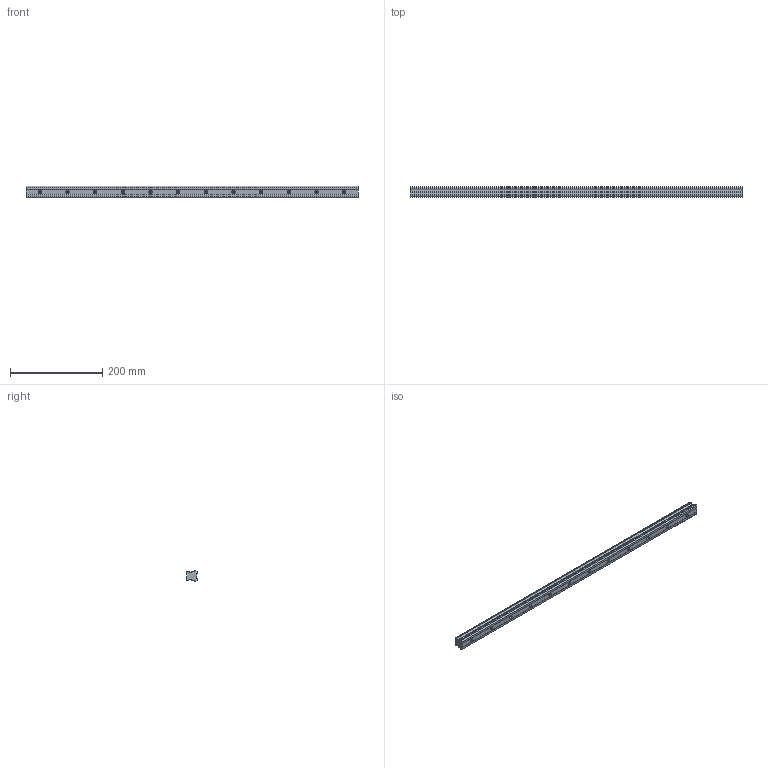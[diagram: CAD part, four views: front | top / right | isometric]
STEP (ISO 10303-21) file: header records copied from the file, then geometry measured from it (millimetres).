
FILE_DESCRIPTION (( 'STEP AP203' ), '1' );
FILE_NAME ('L1018.25R-0720.step', '2023-08-06T10:34:09', ( '' ), ( '' ), 'SwSTEP 2.0', 'SolidWorks 2019', '' );
FILE_SCHEMA (( 'CONFIG_CONTROL_DESIGN' ));
Length unit declared in the file: millimetre
Products named in the file (1): L1018.25R-0720
Bounding box: 720 x 21.8 x 25 mm (x, y, z)
Volume: 299439.4 mm3; surface area: 72341 mm2
Topology: 1 solids, 1 shells, 137 faces, 321 edges, 186 vertices
Faces by surface type: cylinder 51, cone 48, plane 38
Entity records: 3806 total; most frequent: DIRECTION 699, CARTESIAN_POINT 621, ORIENTED_EDGE 594, EDGE_CURVE 297, AXIS2_PLACEMENT_3D 264, VERTEX_POINT 186, LINE 171, VECTOR 171
